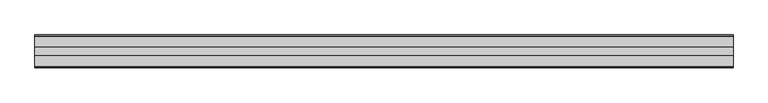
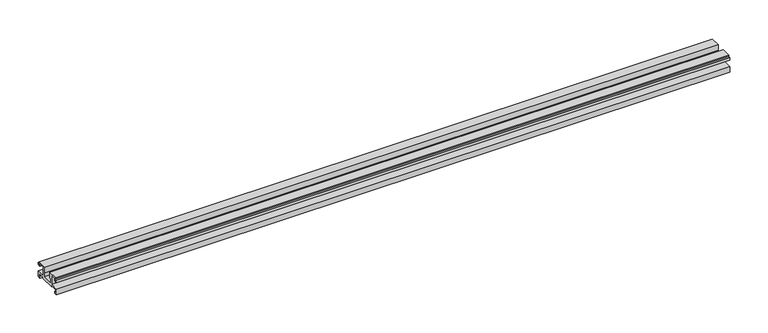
"""IFC4 building model written with IfcOpenShell, lengths in millimetres: proxy geometry, Weiku - Montante - Acoplamento vidro : Weiku - Montante - Acoplamento vidro."""

from ifc_helpers import new_model, si_unit, frame, origin, place, context, project, spatial, polyline, outline, extrude, source, transform, mapped, element, save


def generic_models_ccf5f5f7(model_context):
    return source(origin(), model_context, "Body", "SweptSolid", [
        extrude(outline(polyline([(35.405, 5.1494), (12.495, 5.1494), (12.495, 6.8004), (2.159, 6.8004), (2.159, 2.6094), (4.0216, 2.6094), (4.0216, 0.0), (-0.0014508, 0.0), (-0.0014508, 8.79), (12.954, 8.79), (12.954, 23.3104), (4.3603, 23.3104), (4.3603, 19.204), (0.0, 19.204), (0.0, 22.8024), (0.9736, 22.8024), (0.9736, 20.3894), (3.175, 20.3894), (3.175, 23.9454), (2.3735496, 23.9454), (2.3735496, 25.3), (17.4836, 25.3), (17.4836, 16.283), (15.4516, 16.283), (15.4516, 8.8), (32.4484, 8.8), (32.4484, 16.283), (30.4164, 16.283), (30.4164, 25.3), (45.5264504, 25.3), (45.5264504, 23.9454), (44.725, 23.9454), (44.725, 20.3894), (46.9264, 20.3894), (46.9264, 22.8024), (47.9, 22.8024), (47.9, 19.204), (43.5397, 19.204), (43.5397, 23.3104), (34.946, 23.3104), (34.946, 8.79), (47.9014508, 8.79), (47.9014508, 0.0), (43.8784, 0.0), (43.8784, 2.6094), (45.741, 2.6094), (45.741, 6.8004), (35.405, 6.8004), (35.405, 5.1494)])), frame((-509.15, 0.0, 0.0), z_axis=(1.0, 0.0, 0.0), x_axis=(0.0, 1.0, 0.0)), (0.0, 0.0, 1.0), 1018.3),
    ])


if __name__ == "__main__":
    model = new_model("IFC4")
    model_context = context("Model", 3, world=origin())
    ifc_project = project(units=[si_unit("LENGTHUNIT", "METRE", prefix="MILLI")], contexts=[model_context])
    site = spatial("IfcSite", under=ifc_project)
    building = spatial("IfcBuilding", under=site)
    placement = place(None, origin())
    generic_models_shape = generic_models_ccf5f5f7(model_context)
    element("IfcBuildingElementProxy", 1, Name="Weiku - Montante - Acoplamento vidro : Weiku - Montante - Acoplamento vidro", ObjectType="Weiku - Montante - Acoplamento vidro : Weiku - Montante - Acoplamento vidro", at=placement, inside=building, context=model_context, shape_type="MappedRepresentation", body=[
        mapped(generic_models_shape, transform((0.0, 0.0, 0.0), x_axis=(1.0, 0.0, 0.0), y_axis=(0.0, 1.0, 0.0), z_axis=(0.0, 0.0, 1.0))),
    ])
    save(model, "model.ifc")
